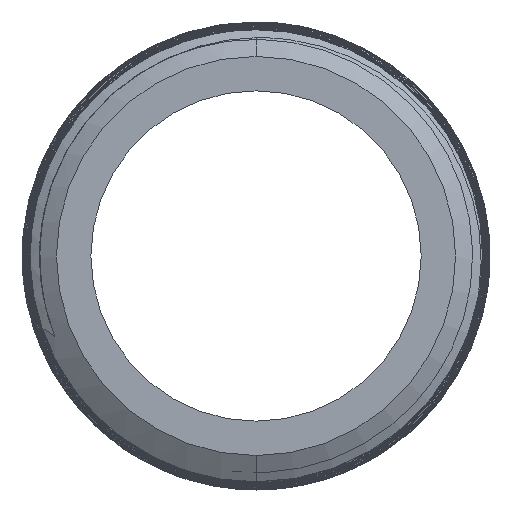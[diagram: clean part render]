
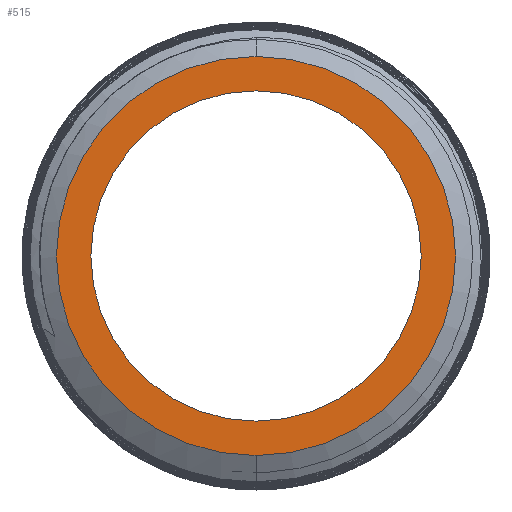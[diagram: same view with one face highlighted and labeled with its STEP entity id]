
A CAD part, left-side view. The second image highlights one B-rep face of the part: STEP entity #515.
In plain terms, the highlighted planar face has unit normal (-1, 0, 0).
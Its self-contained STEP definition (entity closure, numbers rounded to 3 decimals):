
#234 = CARTESIAN_POINT ( 'NONE',  ( -50., 3.6, 0. ) ) ;
#369 = DIRECTION ( 'NONE',  ( -1., 0., 0. ) ) ;
#381 = AXIS2_PLACEMENT_3D ( 'NONE', #2039, #1972, #4094 ) ;
#387 = ORIENTED_EDGE ( 'NONE', *, *, #2269, .T. ) ;
#456 = VERTEX_POINT ( 'NONE', #4471 ) ;
#515 = ADVANCED_FACE ( 'NONE', ( #3361, #1862 ), #6537, .F. ) ;
#573 = ORIENTED_EDGE ( 'NONE', *, *, #4899, .T. ) ;
#639 = EDGE_LOOP ( 'NONE', ( #387, #573 ) ) ;
#979 = ORIENTED_EDGE ( 'NONE', *, *, #2162, .F. ) ;
#1060 = CIRCLE ( 'NONE', #6047, 3.6 ) ;
#1336 = EDGE_LOOP ( 'NONE', ( #979, #2200 ) ) ;
#1862 = FACE_OUTER_BOUND ( 'NONE', #639, .T. ) ;
#1972 = DIRECTION ( 'NONE',  ( -1., 0., 0. ) ) ;
#2039 = CARTESIAN_POINT ( 'NONE',  ( -50., 0., 0. ) ) ;
#2042 = CARTESIAN_POINT ( 'NONE',  ( -50., 0., -4.35 ) ) ;
#2084 = VERTEX_POINT ( 'NONE', #3685 ) ;
#2086 = DIRECTION ( 'NONE',  ( -1., 0., 0. ) ) ;
#2162 = EDGE_CURVE ( 'NONE', #456, #3671, #4735, .T. ) ;
#2200 = ORIENTED_EDGE ( 'NONE', *, *, #4113, .F. ) ;
#2269 = EDGE_CURVE ( 'NONE', #5660, #2084, #3851, .T. ) ;
#2604 = CARTESIAN_POINT ( 'NONE',  ( -50., 0., 0. ) ) ;
#2933 = DIRECTION ( 'NONE',  ( -1., 0., 0. ) ) ;
#3078 = AXIS2_PLACEMENT_3D ( 'NONE', #234, #4505, #4922 ) ;
#3096 = DIRECTION ( 'NONE',  ( 0., 0., 1. ) ) ;
#3361 = FACE_BOUND ( 'NONE', #1336, .T. ) ;
#3470 = CARTESIAN_POINT ( 'NONE',  ( -50., 0., -3.6 ) ) ;
#3623 = AXIS2_PLACEMENT_3D ( 'NONE', #5637, #369, #4532 ) ;
#3671 = VERTEX_POINT ( 'NONE', #3470 ) ;
#3685 = CARTESIAN_POINT ( 'NONE',  ( -50., 0., 4.35 ) ) ;
#3851 = CIRCLE ( 'NONE', #381, 4.35 ) ;
#4094 = DIRECTION ( 'NONE',  ( 0., 0., 1. ) ) ;
#4113 = EDGE_CURVE ( 'NONE', #3671, #456, #1060, .T. ) ;
#4471 = CARTESIAN_POINT ( 'NONE',  ( -50., 0., 3.6 ) ) ;
#4495 = AXIS2_PLACEMENT_3D ( 'NONE', #2604, #2086, #3096 ) ;
#4505 = DIRECTION ( 'NONE',  ( 1., 0., 0. ) ) ;
#4532 = DIRECTION ( 'NONE',  ( 0., 0., 1. ) ) ;
#4735 = CIRCLE ( 'NONE', #3623, 3.6 ) ;
#4899 = EDGE_CURVE ( 'NONE', #2084, #5660, #6476, .T. ) ;
#4922 = DIRECTION ( 'NONE',  ( 0., 0., -1. ) ) ;
#5637 = CARTESIAN_POINT ( 'NONE',  ( -50., 0., 0. ) ) ;
#5660 = VERTEX_POINT ( 'NONE', #2042 ) ;
#6047 = AXIS2_PLACEMENT_3D ( 'NONE', #6568, #2933, #6153 ) ;
#6153 = DIRECTION ( 'NONE',  ( 0., 0., 1. ) ) ;
#6476 = CIRCLE ( 'NONE', #4495, 4.35 ) ;
#6537 = PLANE ( 'NONE',  #3078 ) ;
#6568 = CARTESIAN_POINT ( 'NONE',  ( -50., 0., 0. ) ) ;
